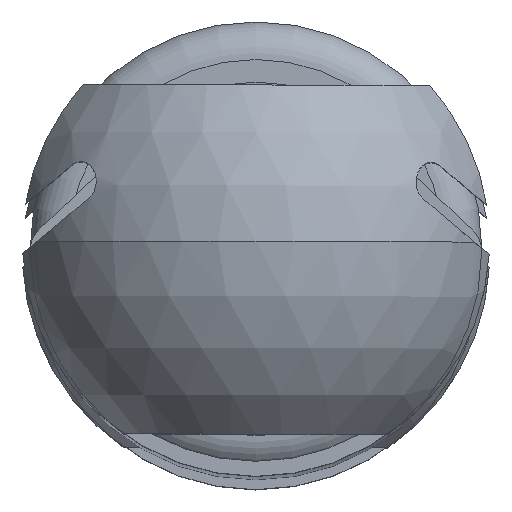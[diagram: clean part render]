
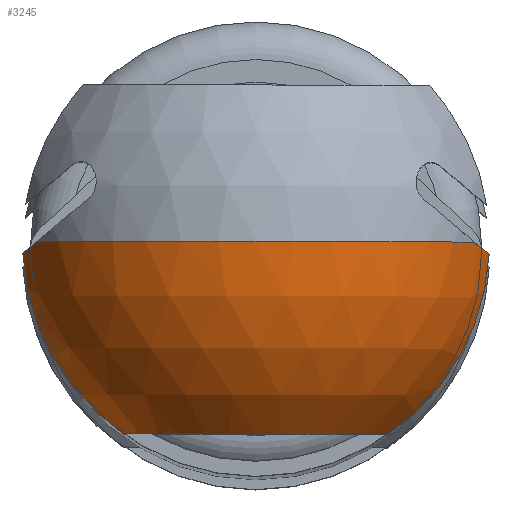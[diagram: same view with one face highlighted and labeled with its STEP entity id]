
A CAD part, top view. The second image highlights one B-rep face of the part: STEP entity #3245.
In plain terms, the highlighted spherical face has radius 8.25 mm.
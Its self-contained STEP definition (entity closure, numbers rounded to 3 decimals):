
#33 = AXIS2_PLACEMENT_3D ( 'NONE', #915, #916, #917 ) ;
#38 = CIRCLE ( 'NONE', #33, 8.25 ) ;
#57 = CIRCLE ( 'NONE', #75, 8.25 ) ;
#75 = AXIS2_PLACEMENT_3D ( 'NONE', #959, #960, #961 ) ;
#410 = EDGE_CURVE ( 'NONE', #1651, #1645, #3932, .T. ) ;
#412 = EDGE_CURVE ( 'NONE', #1645, #4345, #4632, .T. ) ;
#422 = EDGE_CURVE ( 'NONE', #1663, #1748, #4635, .T. ) ;
#423 = EDGE_CURVE ( 'NONE', #4345, #1653, #4644, .T. ) ;
#590 = FACE_OUTER_BOUND ( 'NONE', #1573, .T. ) ;
#593 = SPHERICAL_SURFACE ( 'NONE', #4774, 8.25 ) ;
#775 = CARTESIAN_POINT ( 'NONE',  ( -70., 0., 0. ) ) ;
#776 = DIRECTION ( 'NONE',  ( 0., 0., -1. ) ) ;
#777 = DIRECTION ( 'NONE',  ( 0., -1., 0. ) ) ;
#915 = CARTESIAN_POINT ( 'NONE',  ( -70., 0., 0. ) ) ;
#916 = DIRECTION ( 'NONE',  ( 0., 0., 1. ) ) ;
#917 = DIRECTION ( 'NONE',  ( 1., 0., 0. ) ) ;
#959 = CARTESIAN_POINT ( 'NONE',  ( -70., 0., 0. ) ) ;
#960 = DIRECTION ( 'NONE',  ( 0., 0., -1. ) ) ;
#961 = DIRECTION ( 'NONE',  ( -1., 0., 0. ) ) ;
#1368 = CARTESIAN_POINT ( 'NONE',  ( -72.8, 0., 0. ) ) ;
#1369 = DIRECTION ( 'NONE',  ( -1., 0., 0. ) ) ;
#1370 = DIRECTION ( 'NONE',  ( 0., 0., -1. ) ) ;
#1389 = CARTESIAN_POINT ( 'NONE',  ( -72.8, 7.749, 0.412 ) ) ;
#1573 = EDGE_LOOP ( 'NONE', ( #4305, #4194, #4124, #4184, #4180, #4322, #4248 ) ) ;
#1645 = VERTEX_POINT ( 'NONE', #2925 ) ;
#1650 = VERTEX_POINT ( 'NONE', #2916 ) ;
#1651 = VERTEX_POINT ( 'NONE', #2915 ) ;
#1653 = VERTEX_POINT ( 'NONE', #2918 ) ;
#1663 = VERTEX_POINT ( 'NONE', #2885 ) ;
#1748 = VERTEX_POINT ( 'NONE', #3105 ) ;
#2566 = CARTESIAN_POINT ( 'NONE',  ( -70., 0., 6.4 ) ) ;
#2567 = DIRECTION ( 'NONE',  ( 0., 0., -1. ) ) ;
#2568 = DIRECTION ( 'NONE',  ( 1., 0., 0. ) ) ;
#2571 = CARTESIAN_POINT ( 'NONE',  ( -72.8, 0., 0. ) ) ;
#2572 = DIRECTION ( 'NONE',  ( -1., 0., 0. ) ) ;
#2574 = DIRECTION ( 'NONE',  ( 0., 0., -1. ) ) ;
#2885 = CARTESIAN_POINT ( 'NONE',  ( -73.921, -7.259, 0. ) ) ;
#2915 = CARTESIAN_POINT ( 'NONE',  ( -72.8, -4.389, 6.4 ) ) ;
#2916 = CARTESIAN_POINT ( 'NONE',  ( -78.25, 0., 0. ) ) ;
#2918 = CARTESIAN_POINT ( 'NONE',  ( -73.921, 7.259, 0. ) ) ;
#2925 = CARTESIAN_POINT ( 'NONE',  ( -72.8, 4.389, 6.4 ) ) ;
#3105 = CARTESIAN_POINT ( 'NONE',  ( -72.8, -7.749, 0.412 ) ) ;
#3245 = ADVANCED_FACE ( 'NONE', ( #590 ), #593, .T. ) ;
#3268 = EDGE_CURVE ( 'NONE', #1650, #1663, #38, .T. ) ;
#3277 = EDGE_CURVE ( 'NONE', #1650, #1653, #57, .T. ) ;
#3554 = DIRECTION ( 'NONE',  ( 0., -0.766, -0.643 ) ) ;
#3634 = DIRECTION ( 'NONE',  ( 0., -0.766, 0.643 ) ) ;
#3637 = DIRECTION ( 'NONE',  ( 0., 0.643, 0.766 ) ) ;
#3638 = DIRECTION ( 'NONE',  ( 0., -0.643, 0.766 ) ) ;
#3640 = CARTESIAN_POINT ( 'NONE',  ( -70., -2.999, -3.574 ) ) ;
#3748 = CARTESIAN_POINT ( 'NONE',  ( -70., 2.999, -3.574 ) ) ;
#3932 = CIRCLE ( 'NONE', #4617, 5.206 ) ;
#4073 = EDGE_CURVE ( 'NONE', #1748, #1651, #4658, .T. ) ;
#4124 = ORIENTED_EDGE ( 'NONE', *, *, #422, .T. ) ;
#4180 = ORIENTED_EDGE ( 'NONE', *, *, #410, .T. ) ;
#4184 = ORIENTED_EDGE ( 'NONE', *, *, #4073, .T. ) ;
#4194 = ORIENTED_EDGE ( 'NONE', *, *, #3268, .T. ) ;
#4248 = ORIENTED_EDGE ( 'NONE', *, *, #423, .T. ) ;
#4305 = ORIENTED_EDGE ( 'NONE', *, *, #3277, .F. ) ;
#4322 = ORIENTED_EDGE ( 'NONE', *, *, #412, .T. ) ;
#4345 = VERTEX_POINT ( 'NONE', #1389 ) ;
#4555 = AXIS2_PLACEMENT_3D ( 'NONE', #3748, #3638, #3554 ) ;
#4617 = AXIS2_PLACEMENT_3D ( 'NONE', #2566, #2567, #2568 ) ;
#4625 = AXIS2_PLACEMENT_3D ( 'NONE', #2571, #2572, #2574 ) ;
#4628 = AXIS2_PLACEMENT_3D ( 'NONE', #3640, #3637, #3634 ) ;
#4632 = CIRCLE ( 'NONE', #4625, 7.76 ) ;
#4635 = CIRCLE ( 'NONE', #4628, 6.804 ) ;
#4644 = CIRCLE ( 'NONE', #4555, 6.804 ) ;
#4658 = CIRCLE ( 'NONE', #4665, 7.76 ) ;
#4665 = AXIS2_PLACEMENT_3D ( 'NONE', #1368, #1369, #1370 ) ;
#4774 = AXIS2_PLACEMENT_3D ( 'NONE', #775, #776, #777 ) ;
